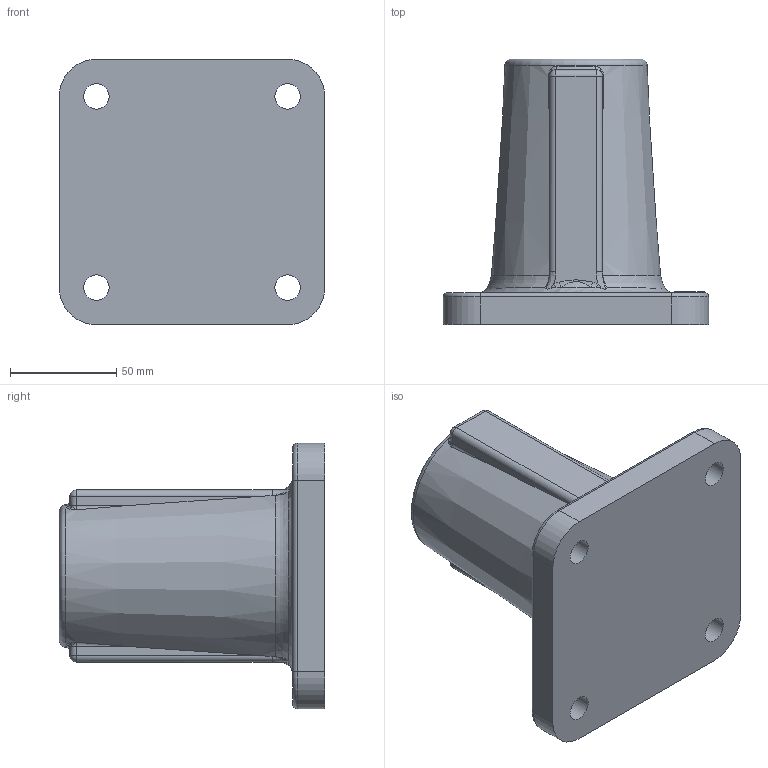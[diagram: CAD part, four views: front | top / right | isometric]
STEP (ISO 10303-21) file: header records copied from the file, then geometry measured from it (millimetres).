
FILE_DESCRIPTION(/* description */ ('FRP HANDRAIL FITTING'),/* implementation_level */ '2;1');
FILE_NAME(/* name */ 'C:\Users\Callum\The Trustee for INKSTONE UNIT TRUST\GRP Australia - Documents\8 Drawings\Handrails\3D Models\MH1-4 Hole-IB.stp',/* time_stamp */ '2023-07-28T11:22:49+10:00',/* author */ ('Callum'),/* organization */ (''),/* preprocessor_version */ 'ST-DEVELOPER v18.1',/* originating_system */ 'Autodesk Inventor 2022',/* authorisation */ '');
FILE_SCHEMA (('AUTOMOTIVE_DESIGN { 1 0 10303 214 3 1 1 }'));
Length unit declared in the file: millimetre
Products named in the file (1): MH1-4 Hole-IB
Bounding box: 125 x 125 x 125 mm (x, y, z)
Volume: 507869.9 mm3; surface area: 80160.2 mm2
Topology: 1 solids, 1 shells, 291 faces, 779 edges, 507 vertices
Faces by surface type: plane 161, bspline 70, cylinder 26, torus 18, cone 12, sphere 4
Full cylindrical faces by diameter (mm): 12 x4
Entity records: 12744 total; most frequent: CARTESIAN_POINT 5897, ORIENTED_EDGE 1558, DIRECTION 1149, EDGE_CURVE 779, VERTEX_POINT 507, LINE 487, VECTOR 487, AXIS2_PLACEMENT_3D 331
